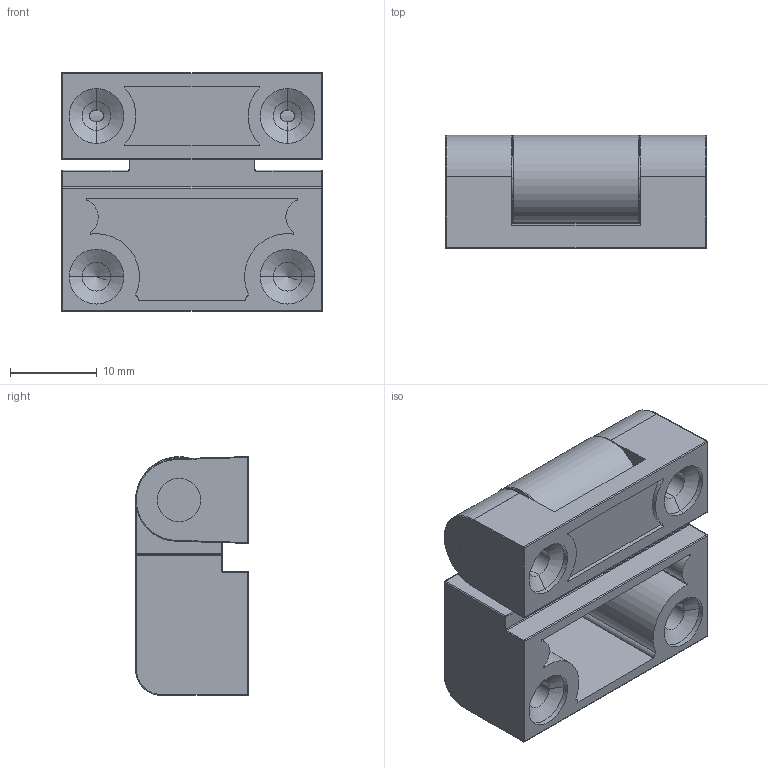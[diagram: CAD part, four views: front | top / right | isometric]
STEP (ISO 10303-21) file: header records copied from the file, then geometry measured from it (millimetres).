
FILE_DESCRIPTION (( 'STEP AP203' ), '1' );
FILE_NAME ('XG02-033-3.STEP', '2023-12-07T07:08:51', ( '' ), ( '' ), 'SwSTEP 2.0', 'SolidWorks 2020', '' );
FILE_SCHEMA (( 'CONFIG_CONTROL_DESIGN' ));
Length unit declared in the file: millimetre
Products named in the file (4): HL011-A; HL011-C; XG02-033-3; HL011-B
Assembly tree (3 placements, depth 2):
  XG02-033-3
    HL011-A
    HL011-B
    HL011-C
Bounding box: 30 x 13 x 27.5 mm (x, y, z)
Volume: 7056.1 mm3; surface area: 5921.5 mm2
Topology: 3 solids, 3 shells, 161 faces, 379 edges, 212 vertices
Faces by surface type: cylinder 87, plane 27, torus 17, cone 16, sphere 14
Entity records: 4954 total; most frequent: DIRECTION 892, CARTESIAN_POINT 794, ORIENTED_EDGE 726, AXIS2_PLACEMENT_3D 366, EDGE_CURVE 363, VERTEX_POINT 212, CIRCLE 199, EDGE_LOOP 175
